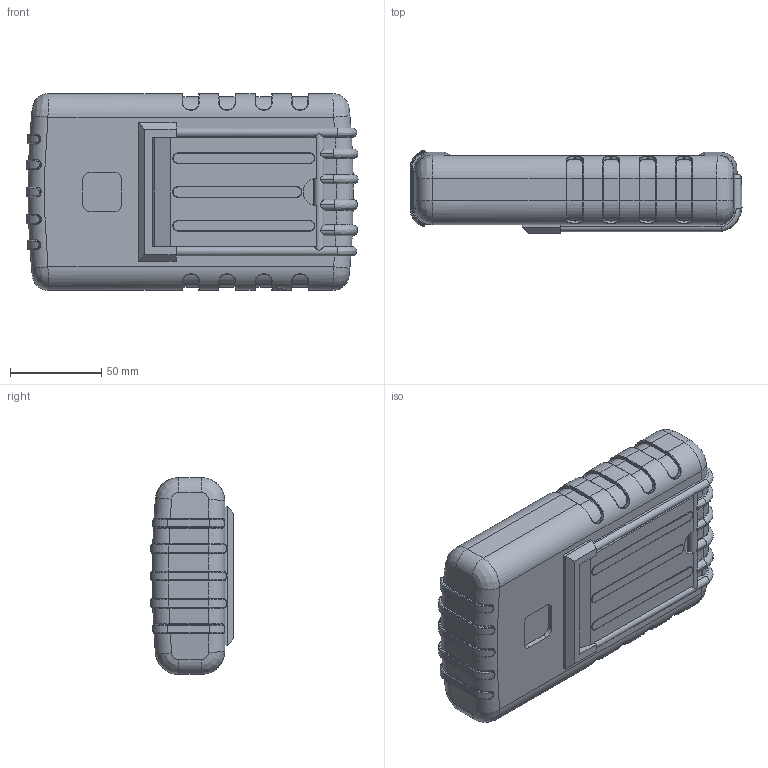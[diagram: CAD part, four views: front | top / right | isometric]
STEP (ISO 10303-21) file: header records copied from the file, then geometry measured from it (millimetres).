
FILE_DESCRIPTION (( 'STEP AP214' ), '1' );
FILE_NAME ('91-43-NO-R.STEP', '2020-10-20T00:59:43', ( 'Rudy' ), ( '' ), 'SwSTEP 2.0', 'SolidWorks 2014', '' );
FILE_SCHEMA (( 'AUTOMOTIVE_DESIGN' ));
Length unit declared in the file: millimetre
Products named in the file (7): 90 RBT; RT 90 stand; 90 PCB NO; 91 LCD Top; 90-no bat-Deep bottom; 91-43-NO-R
Assembly tree (6 placements, depth 3):
  91-43-NO-R
    90-no bat-Deep bottom
    91 LCD Top
    90 PCB NO
    90 RBT
      90 RBT
      RT 90 stand
Bounding box: 182.05 x 45.61 x 108 mm (x, y, z)
Volume: 371990.6 mm3; surface area: 201423.6 mm2
Topology: 5 solids, 5 shells, 1087 faces, 2722 edges, 1678 vertices
Faces by surface type: plane 389, cylinder 356, bspline 180, torus 104, cone 50, sphere 8
Entity records: 44701 total; most frequent: CARTESIAN_POINT 19574, ORIENTED_EDGE 5444, DIRECTION 4985, EDGE_CURVE 2722, AXIS2_PLACEMENT_3D 1871, VERTEX_POINT 1678, LINE 1243, VECTOR 1243
